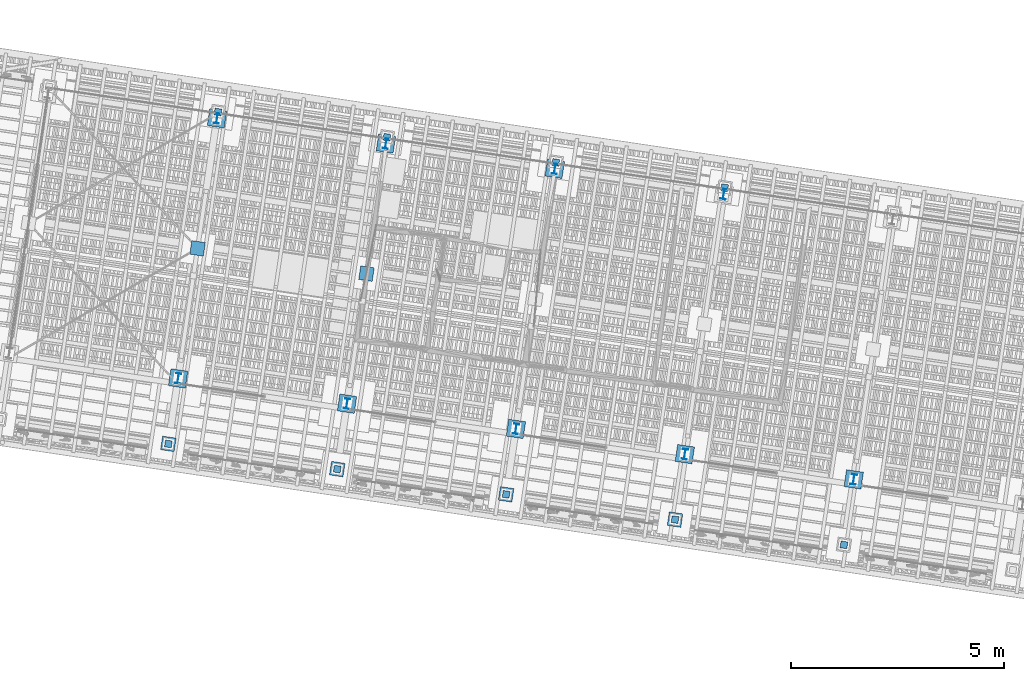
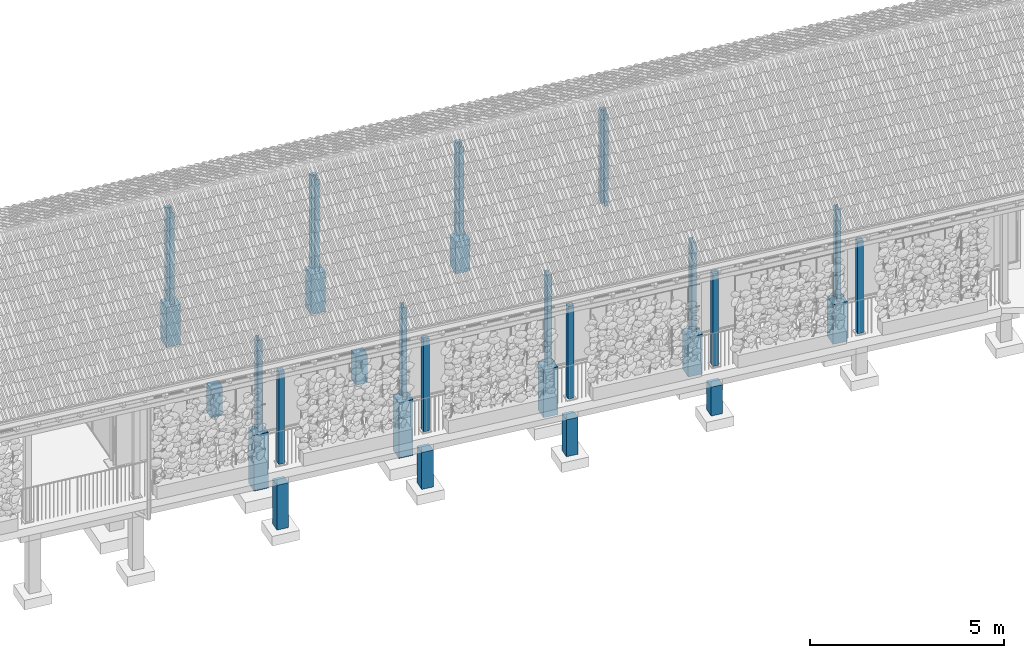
# One storey, part 3 of 131: 32 columns, 2 elements without a shape of their own.
"""IFC4 building model written with IfcOpenShell, lengths in metres."""

from ifc_helpers import new_model, si_unit, direction, frame, origin_with_axes, place, context, subcontext, project, spatial, polyline, rectangle, i_section, outline, extrude, material, material_profile, profile_set, profile_usage, type_object, element, aggregate, save


model = new_model("IFC4")

# Units and contexts
model_context = context("Model", 3, precision=1e-05, world=origin_with_axes(), true_north=direction((0.0, 1.0)))
body_context = subcontext(model_context, "Body", "Model", "MODEL_VIEW")
ifc_project = project(units=[si_unit("AREAUNIT", "SQUARE_METRE"), si_unit("VOLUMEUNIT", "CUBIC_METRE"), si_unit("LENGTHUNIT", "METRE")], contexts=[model_context])

# Site, building, storey
site_placement = place(None, origin_with_axes())
site = spatial("IfcSite", under=ifc_project, at=site_placement, Name="Lares · Rua das Mercês · artigo 4771")
building_placement = place(site_placement, frame((15.0, 9.7, 14.65), z_axis=(0.0, 0.0, 1.0), x_axis=(0.989015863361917, -0.147809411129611, 0.0)))
building = spatial("IfcBuilding", under=site, at=building_placement, Name="Casa Sobreposta")
storey_placement = place(building_placement, origin_with_axes())
storey = spatial("IfcBuildingStorey", under=building, at=storey_placement, Name="00 · Habitação e estacionamento", Elevation=14.65)

# Columns
ifc_material_1 = material(Name="Aço pintado / Stahl lackiert", Category="steel")
ifc_material_profile_1 = material_profile(ifc_material_1, i_section(OverallWidth=0.12, OverallDepth=0.24, WebThickness=0.0062, FlangeThickness=0.0098))
ifc_profile_set_1 = profile_set([ifc_material_profile_1], Name="IPE240")
ifc_profile_usage_1 = profile_usage(ifc_profile_set_1)
column_type_1 = type_object("IfcColumnType", Name="IPE240 / steel", PredefinedType="NOTDEFINED", material=ifc_profile_set_1)
column_1_placement = place(storey_placement, frame((4.0, 0.12, 0.0), z_axis=(0.0, 0.0, 1.0), x_axis=(1.0, 0.0, 0.0)))
element("IfcColumn", 1, at=column_1_placement, inside=storey, type_object=column_type_1, material=ifc_profile_usage_1, Name="Casa térrea · pilar metálico de referência", context=body_context, shape_type="SweptSolid", body=[
    extrude(i_section(OverallWidth=0.12, OverallDepth=0.24, WebThickness=0.0062, FlangeThickness=0.0098), origin_with_axes(), (0.0, 0.0, 1.0), 2.89),
])
ifc_profile_usage_2 = profile_usage(ifc_profile_set_1)
column_2_placement = place(storey_placement, frame((4.0, 6.28, 0.0), z_axis=(0.0, 0.0, 1.0), x_axis=(1.0, 0.0, 0.0)))
element("IfcColumn", 2, at=column_2_placement, inside=storey, type_object=column_type_1, material=ifc_profile_usage_2, Name="Casa térrea · pilar metálico de referência", context=body_context, shape_type="SweptSolid", body=[
    extrude(i_section(OverallWidth=0.12, OverallDepth=0.24, WebThickness=0.0062, FlangeThickness=0.0098), origin_with_axes(), (0.0, 0.0, 1.0), 2.89),
])
ifc_profile_usage_3 = profile_usage(ifc_profile_set_1)
column_3_placement = place(storey_placement, frame((8.0, 0.12, 0.0), z_axis=(0.0, 0.0, 1.0), x_axis=(1.0, 0.0, 0.0)))
element("IfcColumn", 3, at=column_3_placement, inside=storey, type_object=column_type_1, material=ifc_profile_usage_3, Name="Casa térrea · pilar metálico de referência", context=body_context, shape_type="SweptSolid", body=[
    extrude(i_section(OverallWidth=0.12, OverallDepth=0.24, WebThickness=0.0062, FlangeThickness=0.0098), origin_with_axes(), (0.0, 0.0, 1.0), 2.89),
])
ifc_profile_usage_4 = profile_usage(ifc_profile_set_1)
column_4_placement = place(storey_placement, frame((8.0, 6.28, 0.0), z_axis=(0.0, 0.0, 1.0), x_axis=(1.0, 0.0, 0.0)))
element("IfcColumn", 4, at=column_4_placement, inside=storey, type_object=column_type_1, material=ifc_profile_usage_4, Name="Casa térrea · pilar metálico de referência", context=body_context, shape_type="SweptSolid", body=[
    extrude(i_section(OverallWidth=0.12, OverallDepth=0.24, WebThickness=0.0062, FlangeThickness=0.0098), origin_with_axes(), (0.0, 0.0, 1.0), 2.89),
])
ifc_profile_usage_5 = profile_usage(ifc_profile_set_1)
column_5_placement = place(storey_placement, frame((12.0, 0.12, 0.0), z_axis=(0.0, 0.0, 1.0), x_axis=(1.0, 0.0, 0.0)))
element("IfcColumn", 5, at=column_5_placement, inside=storey, type_object=column_type_1, material=ifc_profile_usage_5, Name="Casa térrea · pilar metálico de referência", context=body_context, shape_type="SweptSolid", body=[
    extrude(i_section(OverallWidth=0.12, OverallDepth=0.24, WebThickness=0.0062, FlangeThickness=0.0098), origin_with_axes(), (0.0, 0.0, 1.0), 2.89),
])
ifc_profile_usage_6 = profile_usage(ifc_profile_set_1)
column_6_placement = place(storey_placement, frame((12.0, 6.28, 0.0), z_axis=(0.0, 0.0, 1.0), x_axis=(1.0, 0.0, 0.0)))
element("IfcColumn", 6, at=column_6_placement, inside=storey, type_object=column_type_1, material=ifc_profile_usage_6, Name="Casa térrea · pilar metálico de referência", context=body_context, shape_type="SweptSolid", body=[
    extrude(i_section(OverallWidth=0.12, OverallDepth=0.24, WebThickness=0.0062, FlangeThickness=0.0098), origin_with_axes(), (0.0, 0.0, 1.0), 2.89),
])
ifc_profile_usage_7 = profile_usage(ifc_profile_set_1)
column_7_placement = place(storey_placement, frame((16.0, 0.12, 0.0), z_axis=(0.0, 0.0, 1.0), x_axis=(1.0, 0.0, 0.0)))
element("IfcColumn", 7, at=column_7_placement, inside=storey, type_object=column_type_1, material=ifc_profile_usage_7, Name="Casa térrea · pilar metálico de referência", context=body_context, shape_type="SweptSolid", body=[
    extrude(i_section(OverallWidth=0.12, OverallDepth=0.24, WebThickness=0.0062, FlangeThickness=0.0098), origin_with_axes(), (0.0, 0.0, 1.0), 2.89),
])
ifc_profile_usage_8 = profile_usage(ifc_profile_set_1)
column_8_placement = place(storey_placement, frame((16.0, 6.28, 0.0), z_axis=(0.0, 0.0, 1.0), x_axis=(1.0, 0.0, 0.0)))
element("IfcColumn", 8, at=column_8_placement, inside=storey, type_object=column_type_1, material=ifc_profile_usage_8, Name="Casa térrea · pilar metálico de referência", context=body_context, shape_type="SweptSolid", body=[
    extrude(i_section(OverallWidth=0.12, OverallDepth=0.24, WebThickness=0.0062, FlangeThickness=0.0098), origin_with_axes(), (0.0, 0.0, 1.0), 2.89),
])
ifc_profile_usage_9 = profile_usage(ifc_profile_set_1)
column_9_placement = place(storey_placement, frame((20.0, 0.12, 0.0), z_axis=(0.0, 0.0, 1.0), x_axis=(1.0, 0.0, 0.0)))
element("IfcColumn", 9, at=column_9_placement, inside=storey, type_object=column_type_1, material=ifc_profile_usage_9, Name="Casa térrea · pilar metálico de referência", context=body_context, shape_type="SweptSolid", body=[
    extrude(i_section(OverallWidth=0.12, OverallDepth=0.24, WebThickness=0.0062, FlangeThickness=0.0098), origin_with_axes(), (0.0, 0.0, 1.0), 2.89),
])

# Assembly, columns
assembly_1_placement = place(storey_placement, origin_with_axes())
assembly_1 = element("IfcElementAssembly", 10, at=assembly_1_placement, inside=storey, Name="Varanda coberta · continuação integral da cobertura", ObjectType="COVERED_PODIUM_BALCONY", PredefinedType="USERDEFINED")
ifc_material_2 = material(Name="Madeira / Bauholz", Category="wood")
ifc_material_profile_2 = material_profile(ifc_material_2, rectangle(XDim=0.16, YDim=0.16))
ifc_profile_set_2 = profile_set([ifc_material_profile_2], Name="TIMBER0.160x0.160")
ifc_profile_usage_10 = profile_usage(ifc_profile_set_2)
column_type_2 = type_object("IfcColumnType", Name="TIMBER0.160x0.160 / timber", PredefinedType="NOTDEFINED", material=ifc_profile_set_2)
column_10_placement = place(assembly_1_placement, frame((4.0, -1.43, -0.015), z_axis=(0.0, 0.0, 1.0), x_axis=(1.0, 0.0, 0.0)))
column_10 = element("IfcColumn", 11, at=column_10_placement, type_object=column_type_2, material=ifc_profile_usage_10, Name="Varanda coberta · pilar", context=body_context, shape_type="SweptSolid", body=[
    extrude(rectangle(XDim=0.16, YDim=0.16), origin_with_axes(), (0.0, 0.0, 1.0), 2.905),
])
ifc_profile_usage_11 = profile_usage(ifc_profile_set_2)
column_11_placement = place(assembly_1_placement, frame((4.0, 6.43, -0.015), z_axis=(0.0, 0.0, 1.0), x_axis=(1.0, 0.0, 0.0)))
column_11 = element("IfcColumn", 12, at=column_11_placement, type_object=column_type_2, material=ifc_profile_usage_11, Name="Varanda coberta · pilar", context=body_context, shape_type="SweptSolid", body=[
    extrude(rectangle(XDim=0.16, YDim=0.16), origin_with_axes(), (0.0, 0.0, 1.0), 2.905),
])
ifc_profile_usage_12 = profile_usage(ifc_profile_set_2)
column_12_placement = place(assembly_1_placement, frame((8.0, -1.43, -0.015), z_axis=(0.0, 0.0, 1.0), x_axis=(1.0, 0.0, 0.0)))
column_12 = element("IfcColumn", 13, at=column_12_placement, type_object=column_type_2, material=ifc_profile_usage_12, Name="Varanda coberta · pilar", context=body_context, shape_type="SweptSolid", body=[
    extrude(rectangle(XDim=0.16, YDim=0.16), origin_with_axes(), (0.0, 0.0, 1.0), 2.905),
])
ifc_profile_usage_13 = profile_usage(ifc_profile_set_2)
column_13_placement = place(assembly_1_placement, frame((8.0, 6.43, -0.015), z_axis=(0.0, 0.0, 1.0), x_axis=(1.0, 0.0, 0.0)))
column_13 = element("IfcColumn", 14, at=column_13_placement, type_object=column_type_2, material=ifc_profile_usage_13, Name="Varanda coberta · pilar", context=body_context, shape_type="SweptSolid", body=[
    extrude(rectangle(XDim=0.16, YDim=0.16), origin_with_axes(), (0.0, 0.0, 1.0), 2.905),
])
ifc_profile_usage_14 = profile_usage(ifc_profile_set_2)
column_14_placement = place(assembly_1_placement, frame((12.0, -1.43, -0.015), z_axis=(0.0, 0.0, 1.0), x_axis=(1.0, 0.0, 0.0)))
column_14 = element("IfcColumn", 15, at=column_14_placement, type_object=column_type_2, material=ifc_profile_usage_14, Name="Varanda coberta · pilar", context=body_context, shape_type="SweptSolid", body=[
    extrude(rectangle(XDim=0.16, YDim=0.16), origin_with_axes(), (0.0, 0.0, 1.0), 2.905),
])
ifc_profile_usage_15 = profile_usage(ifc_profile_set_2)
column_15_placement = place(assembly_1_placement, frame((12.0, 6.43, -0.015), z_axis=(0.0, 0.0, 1.0), x_axis=(1.0, 0.0, 0.0)))
column_15 = element("IfcColumn", 16, at=column_15_placement, type_object=column_type_2, material=ifc_profile_usage_15, Name="Varanda coberta · pilar", context=body_context, shape_type="SweptSolid", body=[
    extrude(rectangle(XDim=0.16, YDim=0.16), origin_with_axes(), (0.0, 0.0, 1.0), 2.905),
])
ifc_profile_usage_16 = profile_usage(ifc_profile_set_2)
column_16_placement = place(assembly_1_placement, frame((16.0, -1.43, -0.015), z_axis=(0.0, 0.0, 1.0), x_axis=(1.0, 0.0, 0.0)))
column_16 = element("IfcColumn", 17, at=column_16_placement, type_object=column_type_2, material=ifc_profile_usage_16, Name="Varanda coberta · pilar", context=body_context, shape_type="SweptSolid", body=[
    extrude(rectangle(XDim=0.16, YDim=0.16), origin_with_axes(), (0.0, 0.0, 1.0), 2.905),
])
ifc_profile_usage_17 = profile_usage(ifc_profile_set_2)
column_17_placement = place(assembly_1_placement, frame((16.0, 6.43, -0.015), z_axis=(0.0, 0.0, 1.0), x_axis=(1.0, 0.0, 0.0)))
column_17 = element("IfcColumn", 18, at=column_17_placement, type_object=column_type_2, material=ifc_profile_usage_17, Name="Varanda coberta · pilar", context=body_context, shape_type="SweptSolid", body=[
    extrude(rectangle(XDim=0.16, YDim=0.16), origin_with_axes(), (0.0, 0.0, 1.0), 2.905),
])
ifc_profile_usage_18 = profile_usage(ifc_profile_set_2)
column_18_placement = place(assembly_1_placement, frame((20.0, -1.43, -0.015), z_axis=(0.0, 0.0, 1.0), x_axis=(1.0, 0.0, 0.0)))
column_18 = element("IfcColumn", 19, at=column_18_placement, type_object=column_type_2, material=ifc_profile_usage_18, Name="Varanda coberta · pilar", context=body_context, shape_type="SweptSolid", body=[
    extrude(rectangle(XDim=0.16, YDim=0.16), origin_with_axes(), (0.0, 0.0, 1.0), 2.905),
])
aggregate(assembly_1, [column_10, column_11, column_12, column_13, column_14, column_15, column_16, column_17, column_18])

# Columns
ifc_material_3 = material(Name="Betão armado / Stahlbeton", Category="concrete")
column_19_placement = place(storey_placement, frame((0.0, 0.0, -1.75), z_axis=(0.0, 0.0, 1.0), x_axis=(1.0, 0.0, 0.0)))
element("IfcColumn", 20, at=column_19_placement, inside=storey, material=ifc_material_3, Name="Casa térrea · pedestal", context=body_context, shape_type="SweptSolid", body=[
    extrude(outline(polyline([(4.2, -0.08), (4.2, 0.32), (3.8, 0.32), (3.8, -0.08), (4.2, -0.08)])), origin_with_axes(), (0.0, 0.0, 1.0), 1.75),
])
column_20_placement = place(storey_placement, frame((0.0, 0.0, -1.25), z_axis=(0.0, 0.0, 1.0), x_axis=(1.0, 0.0, 0.0)))
element("IfcColumn", 21, at=column_20_placement, inside=storey, material=ifc_material_3, Name="Casa térrea · pedestal", context=body_context, shape_type="SweptSolid", body=[
    extrude(outline(polyline([(4.2, 6.08), (4.2, 6.48), (3.8, 6.48), (3.8, 6.08), (4.2, 6.08)])), origin_with_axes(), (0.0, 0.0, 1.0), 1.25),
])
column_21_placement = place(storey_placement, frame((0.0, 0.0, -1.75), z_axis=(0.0, 0.0, 1.0), x_axis=(1.0, 0.0, 0.0)))
element("IfcColumn", 22, at=column_21_placement, inside=storey, material=ifc_material_3, Name="Casa térrea · pedestal", context=body_context, shape_type="SweptSolid", body=[
    extrude(outline(polyline([(8.2, -0.08), (8.2, 0.32), (7.8, 0.32), (7.8, -0.08), (8.2, -0.08)])), origin_with_axes(), (0.0, 0.0, 1.0), 1.75),
])
column_22_placement = place(storey_placement, frame((0.0, 0.0, -1.25), z_axis=(0.0, 0.0, 1.0), x_axis=(1.0, 0.0, 0.0)))
element("IfcColumn", 23, at=column_22_placement, inside=storey, material=ifc_material_3, Name="Casa térrea · pedestal", context=body_context, shape_type="SweptSolid", body=[
    extrude(outline(polyline([(8.2, 6.08), (8.2, 6.48), (7.8, 6.48), (7.8, 6.08), (8.2, 6.08)])), origin_with_axes(), (0.0, 0.0, 1.0), 1.25),
])
column_23_placement = place(storey_placement, frame((0.0, 0.0, -1.5), z_axis=(0.0, 0.0, 1.0), x_axis=(1.0, 0.0, 0.0)))
element("IfcColumn", 24, at=column_23_placement, inside=storey, material=ifc_material_3, Name="Casa térrea · pedestal", context=body_context, shape_type="SweptSolid", body=[
    extrude(outline(polyline([(12.2, -0.08), (12.2, 0.32), (11.8, 0.32), (11.8, -0.08), (12.2, -0.08)])), origin_with_axes(), (0.0, 0.0, 1.0), 1.5),
])
column_24_placement = place(storey_placement, frame((0.0, 0.0, -1.0), z_axis=(0.0, 0.0, 1.0), x_axis=(1.0, 0.0, 0.0)))
element("IfcColumn", 25, at=column_24_placement, inside=storey, material=ifc_material_3, Name="Casa térrea · pedestal", context=body_context, shape_type="SweptSolid", body=[
    extrude(outline(polyline([(12.2, 6.08), (12.2, 6.48), (11.8, 6.48), (11.8, 6.08), (12.2, 6.08)])), origin_with_axes(), (0.0, 0.0, 1.0), 1.0),
])
column_25_placement = place(storey_placement, frame((0.0, 0.0, -1.25), z_axis=(0.0, 0.0, 1.0), x_axis=(1.0, 0.0, 0.0)))
element("IfcColumn", 26, at=column_25_placement, inside=storey, material=ifc_material_3, Name="Casa térrea · pedestal", context=body_context, shape_type="SweptSolid", body=[
    extrude(outline(polyline([(16.2, -0.08), (16.2, 0.32), (15.8, 0.32), (15.8, -0.08), (16.2, -0.08)])), origin_with_axes(), (0.0, 0.0, 1.0), 1.25),
])
column_26_placement = place(storey_placement, frame((0.0, 0.0, -1.25), z_axis=(0.0, 0.0, 1.0), x_axis=(1.0, 0.0, 0.0)))
element("IfcColumn", 27, at=column_26_placement, inside=storey, material=ifc_material_3, Name="Casa térrea · pedestal", context=body_context, shape_type="SweptSolid", body=[
    extrude(outline(polyline([(20.2, -0.08), (20.2, 0.32), (19.8, 0.32), (19.8, -0.08), (20.2, -0.08)])), origin_with_axes(), (0.0, 0.0, 1.0), 1.25),
])

# Assembly, columns
assembly_2_placement = place(storey_placement, origin_with_axes())
assembly_2 = element("IfcElementAssembly", 28, at=assembly_2_placement, inside=storey, Name="Pódio · terraço, casa térrea e cisterna", ObjectType="CISTERN_PODIUM", PredefinedType="USERDEFINED")
column_27_placement = place(assembly_2_placement, frame((0.0, 0.0, -2.0), z_axis=(0.0, 0.0, 1.0), x_axis=(1.0, 0.0, 0.0)))
column_27 = element("IfcColumn", 29, at=column_27_placement, material=ifc_material_3, Name="Pódio suspenso · apoio sobre o terreno", context=body_context, shape_type="SweptSolid", body=[
    extrude(outline(polyline([(4.16, -1.59), (4.16, -1.27), (3.84, -1.27), (3.84, -1.59), (4.16, -1.59)])), origin_with_axes(), (0.0, 0.0, 1.0), 1.41),
])
column_28_placement = place(assembly_2_placement, frame((0.0, 0.0, -1.5), z_axis=(0.0, 0.0, 1.0), x_axis=(1.0, 0.0, 0.0)))
column_28 = element("IfcColumn", 30, at=column_28_placement, material=ifc_material_3, Name="Pódio suspenso · apoio sobre o terreno", context=body_context, shape_type="SweptSolid", body=[
    extrude(outline(polyline([(4.16, 3.04), (4.16, 3.36), (3.84, 3.36), (3.84, 3.04), (4.16, 3.04)])), origin_with_axes(), (0.0, 0.0, 1.0), 0.91),
])
column_29_placement = place(assembly_2_placement, frame((0.0, 0.0, -1.75), z_axis=(0.0, 0.0, 1.0), x_axis=(1.0, 0.0, 0.0)))
column_29 = element("IfcColumn", 31, at=column_29_placement, material=ifc_material_3, Name="Pódio suspenso · apoio sobre o terreno", context=body_context, shape_type="SweptSolid", body=[
    extrude(outline(polyline([(8.16, -1.59), (8.16, -1.27), (7.84, -1.27), (7.84, -1.59), (8.16, -1.59)])), origin_with_axes(), (0.0, 0.0, 1.0), 1.16),
])
column_30_placement = place(assembly_2_placement, frame((0.0, 0.0, -1.5), z_axis=(0.0, 0.0, 1.0), x_axis=(1.0, 0.0, 0.0)))
column_30 = element("IfcColumn", 32, at=column_30_placement, material=ifc_material_3, Name="Pódio suspenso · apoio sobre o terreno", context=body_context, shape_type="SweptSolid", body=[
    extrude(outline(polyline([(8.16, 3.04), (8.16, 3.36), (7.84, 3.36), (7.84, 3.04), (8.16, 3.04)])), origin_with_axes(), (0.0, 0.0, 1.0), 0.91),
])
column_31_placement = place(assembly_2_placement, frame((0.0, 0.0, -1.75), z_axis=(0.0, 0.0, 1.0), x_axis=(1.0, 0.0, 0.0)))
column_31 = element("IfcColumn", 33, at=column_31_placement, material=ifc_material_3, Name="Pódio suspenso · apoio sobre o terreno", context=body_context, shape_type="SweptSolid", body=[
    extrude(outline(polyline([(12.16, -1.59), (12.16, -1.27), (11.84, -1.27), (11.84, -1.59), (12.16, -1.59)])), origin_with_axes(), (0.0, 0.0, 1.0), 1.16),
])
column_32_placement = place(assembly_2_placement, frame((0.0, 0.0, -1.5), z_axis=(0.0, 0.0, 1.0), x_axis=(1.0, 0.0, 0.0)))
column_32 = element("IfcColumn", 34, at=column_32_placement, material=ifc_material_3, Name="Pódio suspenso · apoio sobre o terreno", context=body_context, shape_type="SweptSolid", body=[
    extrude(outline(polyline([(16.16, -1.59), (16.16, -1.27), (15.84, -1.27), (15.84, -1.59), (16.16, -1.59)])), origin_with_axes(), (0.0, 0.0, 1.0), 0.91),
])
aggregate(assembly_2, [column_27, column_28, column_29, column_30, column_31, column_32])

save(model, "model.ifc")
